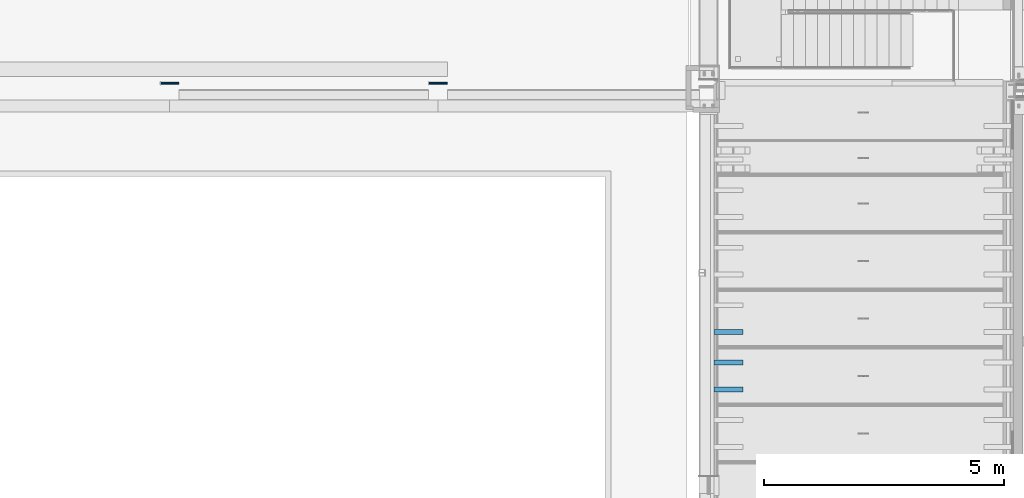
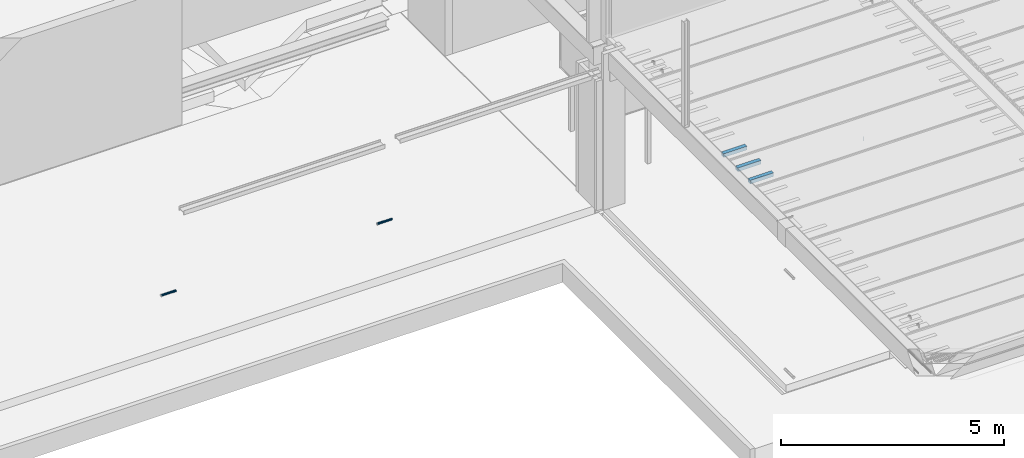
# One storey, part 11 of 230: 6 beams.
"""IFC4X3_ADD2 building model written with IfcOpenShell, lengths in millimetres."""

import ifcopenshell
import ifcopenshell.guid

model = None  # the IFC model being written
_history = None  # IfcOwnerHistory: only IFC2X3 demands one
_inside = {}  # id of a spatial element -> (the spatial element, [elements in it])
_under = {}  # id of a project, library or spatial element -> (it, [spatial elements below it])
_declared = {}  # id of a project -> (the project, [libraries it declares])
_typed = {}  # id of a type object -> (the type object, [elements of that type])
_made_of = {}  # id of a material, layer set ... -> (it, [elements and type objects made of it])


def new_model(schema):
    """Start an empty IFC model of exactly this schema.

    Asked for "IFC4X3", IfcOpenShell would pick the latest addendum, in which some entities
    have other attributes; the version numbers below select the first issue.
    IFC2X3 requires an IfcOwnerHistory on every rooted entity: one is made here for all.
    """
    global model, _history
    if schema == "IFC4X3":
        model = ifcopenshell.file(schema_version=(4, 3, 0, 0))
    else:
        model = ifcopenshell.file(schema=schema)
    _inside.clear()
    _under.clear()
    _declared.clear()
    _typed.clear()
    _made_of.clear()
    _history = None
    if model.schema == "IFC2X3":
        org = make("IfcOrganization", Name="unknown")
        user = make(
            "IfcPersonAndOrganization",
            ThePerson=make("IfcPerson", FamilyName="unknown"),
            TheOrganization=org,
        )
        app = make(
            "IfcApplication",
            ApplicationDeveloper=org,
            Version="unknown",
            ApplicationFullName="unknown",
            ApplicationIdentifier="unknown",
        )
        _history = make(
            "IfcOwnerHistory",
            OwningUser=user,
            OwningApplication=app,
            ChangeAction="ADDED",
            CreationDate=0,
        )
    return model


def make(cls, **values):
    """One entity of the class cls with the attributes given. An attribute that is None is left unset."""
    return model.create_entity(
        cls, **{name: value for name, value in values.items() if value is not None}
    )


def rooted(cls, **values):
    """An entity with a GlobalId (a new one), such as an element, a storey or a relation."""
    return make(cls, GlobalId=ifcopenshell.guid.new(), OwnerHistory=_history, **values)


def si_unit(unit_type, name, prefix=None):
    """IfcSIUnit, for example si_unit("LENGTHUNIT", "METRE", prefix="MILLI")."""
    return make("IfcSIUnit", UnitType=unit_type, Prefix=prefix, Name=name)


def assignment(units):
    """IfcUnitAssignment: the units of a project."""
    return None if units is None else make("IfcUnitAssignment", Units=units)


def point(xyz):
    """IfcCartesianPoint."""
    return None if xyz is None else make("IfcCartesianPoint", Coordinates=xyz)


def direction(xyz):
    """IfcDirection."""
    return None if xyz is None else make("IfcDirection", DirectionRatios=xyz)


def frame(location, z_axis=None, x_axis=None):
    """IfcAxis2Placement3D, a coordinate frame: its origin and axes. An axis left out is left unset."""
    return make(
        "IfcAxis2Placement3D",
        Location=point(location),
        Axis=direction(z_axis),
        RefDirection=direction(x_axis),
    )


def frame_2d(location, x_axis=None):
    """IfcAxis2Placement2D, a coordinate frame in the plane: its origin and x axis."""
    return make(
        "IfcAxis2Placement2D", Location=point(location), RefDirection=direction(x_axis)
    )


def origin_with_axes():
    """The frame at (0, 0, 0) with the z axis (0, 0, 1) and the x axis (1, 0, 0) written out."""
    return frame((0.0, 0.0, 0.0), z_axis=(0.0, 0.0, 1.0), x_axis=(1.0, 0.0, 0.0))


def place(relative_to, where):
    """IfcLocalPlacement: puts the frame where relative to a parent placement (None: the world)."""
    return make(
        "IfcLocalPlacement", PlacementRelTo=relative_to, RelativePlacement=where
    )


def context(
    kind, dimensions, precision=None, world=None, true_north=None, identifier=None
):
    """IfcGeometricRepresentationContext, for example the 3D "Model" context."""
    return make(
        "IfcGeometricRepresentationContext",
        ContextIdentifier=identifier,
        ContextType=kind,
        CoordinateSpaceDimension=dimensions,
        Precision=precision,
        WorldCoordinateSystem=world,
        TrueNorth=true_north,
    )


def subcontext(parent, identifier, kind, view, scale=None):
    """IfcGeometricRepresentationSubContext, for example "Body" below "Model"."""
    return make(
        "IfcGeometricRepresentationSubContext",
        ContextIdentifier=identifier,
        ContextType=kind,
        ParentContext=parent,
        TargetScale=scale,
        TargetView=view,
    )


def project(units=None, contexts=None):
    """IfcProject with its units and contexts."""
    return rooted(
        "IfcProject",
        Name="project",
        RepresentationContexts=contexts,
        UnitsInContext=assignment(units),
    )


def spatial(cls, under=None, at=None, **own):
    """A site, building, storey or space (cls), placed at a placement, below another one or the project."""
    s = rooted(cls, ObjectPlacement=at, **own)
    if under is not None:
        _under.setdefault(under.id(), (under, []))[1].append(s)
    return s


def profile(cls, at=None, kind="AREA", **sizes):
    """A parametric profile (cls). Its sizes go by their IFC names, for example OverallWidth=200.0."""
    return make(cls, ProfileType=kind, Position=at, **sizes)


def rectangle(**sizes):
    """IfcRectangleProfileDef."""
    return profile("IfcRectangleProfileDef", **sizes)


def hollow_circle(**sizes):
    """IfcCircleHollowProfileDef."""
    return profile("IfcCircleHollowProfileDef", **sizes)


def extrude(swept, where, along, depth):
    """IfcExtrudedAreaSolid: the profile swept, set in the frame where, extruded along a direction by depth."""
    return make(
        "IfcExtrudedAreaSolid",
        SweptArea=swept,
        Position=where,
        ExtrudedDirection=direction(along),
        Depth=depth,
    )


def shape(context_of_items, identifier, shape_type, items):
    """IfcShapeRepresentation: the items that make up one representation, for example the "Body"."""
    return make(
        "IfcShapeRepresentation",
        ContextOfItems=context_of_items,
        RepresentationIdentifier=identifier,
        RepresentationType=shape_type,
        Items=items,
    )


def material(Name=None, Category=None):
    """IfcMaterial."""
    return make("IfcMaterial", Name=Name, Category=Category)


def made_of(thing, what):
    """Note that an element or type object is made of a material, layer set ...; save() writes the relation."""
    if what is not None:
        _made_of.setdefault(what.id(), (what, []))[1].append(thing)
    return thing


def element(
    cls,
    number,
    at=None,
    inside=None,
    cuts=None,
    type_object=None,
    material=None,
    context=None,
    identifier="Body",
    shape_type=None,
    held_by="IfcProductDefinitionShape",
    body=None,
    shapes=None,
    **own,
):
    """One element of the class cls, such as IfcWall. Its Tag is "e" and its number.

    at: its placement. inside: the storey or other place that contains it. cuts: it is an
    opening in that element (IfcRelVoidsElement). A single representation is given by context,
    identifier, shape_type and body (its items); several are given by shapes. held_by: the class
    of the entity that holds the representations. save() writes the other relations.
    """
    e = rooted(cls, Tag="e%d" % number, ObjectPlacement=at, **own)
    if body is not None:
        shapes = [shape(context, identifier, shape_type, body)]
    if shapes is not None:
        e.Representation = make(held_by, Representations=shapes)
    if inside is not None:
        _inside.setdefault(inside.id(), (inside, []))[1].append(e)
    if cuts is not None:
        rooted(
            "IfcRelVoidsElement", RelatingBuildingElement=cuts, RelatedOpeningElement=e
        )
    if type_object is not None:
        _typed.setdefault(type_object.id(), (type_object, []))[1].append(e)
    return made_of(e, material)


def aggregate(whole, parts):
    """IfcRelAggregates: a whole, such as a stair, and the parts it consists of."""
    return rooted("IfcRelAggregates", RelatingObject=whole, RelatedObjects=parts)


def save(model, path):
    """Write the relations noted so far, then the file.

    IfcRelAggregates (storeys below a building ...), IfcRelContainedInSpatialStructure (elements
    in a storey), IfcRelDefinesByType, IfcRelAssociatesMaterial and IfcRelDeclares: one each for
    every whole, place, type object, material and project.
    """
    for whole, parts in _under.values():
        aggregate(whole, parts)
    for where, things in _inside.values():
        rooted(
            "IfcRelContainedInSpatialStructure",
            RelatedElements=things,
            RelatingStructure=where,
        )
    for kind, things in _typed.values():
        rooted("IfcRelDefinesByType", RelatedObjects=things, RelatingType=kind)
    for what, things in _made_of.values():
        rooted("IfcRelAssociatesMaterial", RelatedObjects=things, RelatingMaterial=what)
    for by, libraries in _declared.values():
        rooted("IfcRelDeclares", RelatingContext=by, RelatedDefinitions=libraries)
    model.write(path)


model = new_model("IFC4X3_ADD2")

# Units and contexts
model_context = context("Model", 3, precision=1e-05, world=origin_with_axes(), true_north=direction((0.0, 1.0)))
body_context = subcontext(model_context, "Body", "Model", "MODEL_VIEW")
ifc_project = project(units=[si_unit("LENGTHUNIT", "METRE", prefix="MILLI"), si_unit("AREAUNIT", "SQUARE_METRE"), si_unit("VOLUMEUNIT", "CUBIC_METRE"), si_unit("PLANEANGLEUNIT", "RADIAN"), si_unit("TIMEUNIT", "SECOND"), si_unit("MASSUNIT", "GRAM")], contexts=[model_context])

# Site, building, storey
site_placement = place(None, origin_with_axes())
site = spatial("IfcSite", under=ifc_project, at=site_placement, Name="Site", CompositionType="ELEMENT")
building_placement = place(site_placement, origin_with_axes())
building = spatial("IfcBuilding", under=site, at=building_placement, Name="IFC Building Story")
storey_placement = place(building_placement, origin_with_axes())
storey = spatial("IfcBuildingStorey", under=building, at=storey_placement, Name="ETAGE 00 (0)", Elevation=0.0)

# Beams
ifc_material_1 = material(Name="STEEL/Accessory_invisible")
for number, where, z_axis, x_axis, name in (
    (1, (34115.6922247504, -4839.999771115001, 4150.0), (-1.0, 0.0, 0.0), (0.0, 1.0, 0.0), "ES7"),
    (2, (34115.6922247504, -5479.999771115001, 4150.0), (-1.0, 0.0, 0.0), (0.0, 1.0, 0.0), "ES7"),
    (3, (34115.6922247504, -6039.999771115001, 4150.0), (-1.0, 0.0, 0.0), (0.0, 1.0, 0.0), "ES7"),
):
    element("IfcBeam", number, at=place(storey_placement, frame(where, z_axis=z_axis, x_axis=x_axis)), inside=storey, material=ifc_material_1, Name=name, ObjectType="100*100", context=body_context, shape_type="SweptSolid", body=[
        extrude(rectangle(XDim=100.0, YDim=99.99999999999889, at=frame_2d((0.0, 5.95523630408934e-12), x_axis=(1.0, 0.0))), origin_with_axes(), (0.0, 0.0, 1.0), 600.0),
    ])
ifc_material_2 = material(Name="STEEL/Accessory_invisible 261")
beam_1_placement = place(storey_placement, frame((36633.6922247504, -5759.999771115, 4049.9999909), z_axis=(-1.0, 0.0, 0.0), x_axis=(0.0, 0.0, -1.0)))
element("IfcBeam", 4, at=beam_1_placement, inside=storey, material=ifc_material_2, Name="ES6", ObjectType="1*1 2", context=body_context, shape_type="SweptSolid", body=[
    extrude(rectangle(XDim=100.0, YDim=0.9999999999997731, at=frame_2d((0.0, 5.95523630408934e-12), x_axis=(1.0, 0.0))), origin_with_axes(), (0.0, 0.0, 1.0), 1.0),
])
ifc_material_3 = material(Name="STEEL/Accessory_PVC")
beam_2_placement = place(storey_placement, frame((21964.1892084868, 349.999963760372, 1190.0), z_axis=(1.0, 0.0, 0.0), x_axis=(0.0, 0.0, -1.0)))
element("IfcBeam", 5, at=beam_2_placement, inside=storey, material=ifc_material_3, Name="PS13", ObjectType="O56*3", context=body_context, shape_type="SweptSolid", body=[
    extrude(hollow_circle(Radius=28.0, WallThickness=3.0, at=frame_2d((0.0, 5.95523630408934e-12), x_axis=(1.0, 0.0))), origin_with_axes(), (0.0, 0.0, 1.0), 383.9999999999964),
])
beam_3_placement = place(storey_placement, frame((27564.1886362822, 349.999963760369, 1190.0), z_axis=(1.0, 0.0, 0.0), x_axis=(0.0, 0.0, -1.0)))
element("IfcBeam", 6, at=beam_3_placement, inside=storey, material=ifc_material_3, Name="PS13", ObjectType="O56*3", context=body_context, shape_type="SweptSolid", body=[
    extrude(hollow_circle(Radius=28.0, WallThickness=3.0, at=frame_2d((0.0, 5.95523630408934e-12), x_axis=(1.0, 0.0))), origin_with_axes(), (0.0, 0.0, 1.0), 384.0),
])

save(model, "model.ifc")
